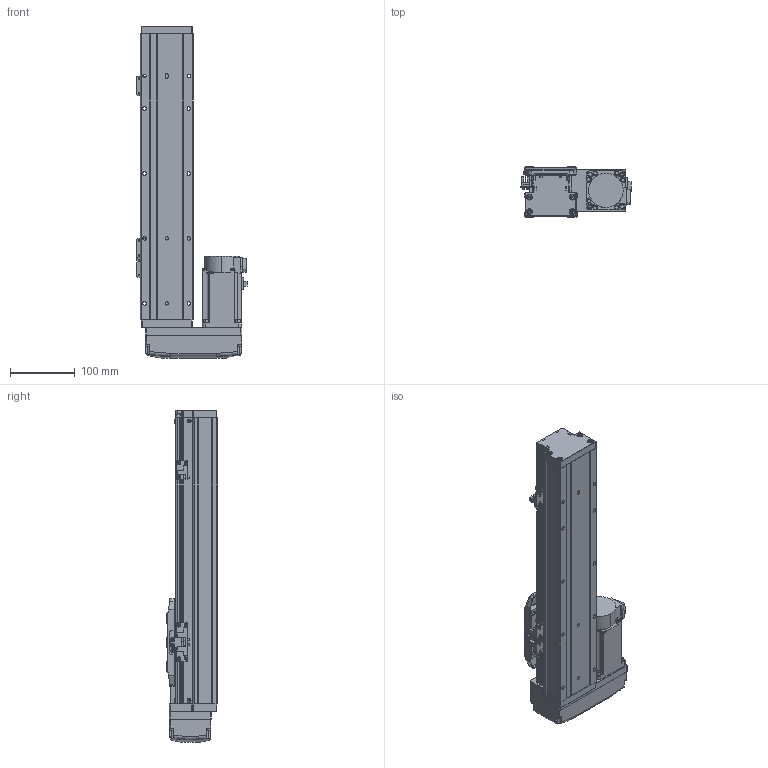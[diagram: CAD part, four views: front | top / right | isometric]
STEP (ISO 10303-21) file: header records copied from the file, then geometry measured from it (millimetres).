
FILE_DESCRIPTION (( 'STEP AP203' ), '1' );
FILE_NAME ('GTH8-250-BR-M20-C4.step', '2022-09-23T01:09:34', ( '微软用户' ), ( '微软中国' ), 'SwSTEP 2.0', 'SolidWorks 2020', '' );
FILE_SCHEMA (( 'CONFIG_CONTROL_DESIGN' ));
Length unit declared in the file: millimetre
Products named in the file (18): GTH80-001_250; GBT 70.3-M3℅6; GBT96.1-2002 3×0.8; GTH80-003; GTH80-022; BTH-M3X5X6; GTH80-004; GBT 70.1-M3℅6; hg-kn43j_-s100_; GBT 70.1-M4×16; CTHA86-015-1_CTHA86-015-2; GTH80-028; CTHA86-033_M40B; GTH80-006; GTH50-024; GTH8-250-BR-M20-C4; GTH80-013; GTH50-023
Assembly tree (57 placements, depth 2):
  GTH8-250-BR-M20-C4
    GTH80-001_250
    GTH80-003
    GTH80-004
    GTH80-006
    GTH80-013
    GBT 70.3-M3℅6  x4
    GTH80-022
    GBT 70.1-M3℅6  x14
    GBT 70.1-M4×16  x8
    GTH80-028  x2
    GTH50-024  x3
    GTH50-023  x3
    GBT96.1-2002 3×0.8  x6
    BTH-M3X5X6  x8
    hg-kn43j_-s100_
    CTHA86-015-1_CTHA86-015-2
    CTHA86-033_M40B
Bounding box: 169.7 x 78 x 511 mm (x, y, z)
Volume: 2896368.5 mm3; surface area: 346372.9 mm2
Topology: 59 solids, 59 shells, 2228 faces, 5139 edges, 3147 vertices
Faces by surface type: plane 1187, cylinder 599, cone 260, torus 166, bspline 8, sphere 8
Entity records: 40478 total; most frequent: CARTESIAN_POINT 7121, DIRECTION 6565, ORIENTED_EDGE 6096, EDGE_CURVE 3048, AXIS2_PLACEMENT_3D 2289, VECTOR 1987, LINE 1987, VERTEX_POINT 1922
